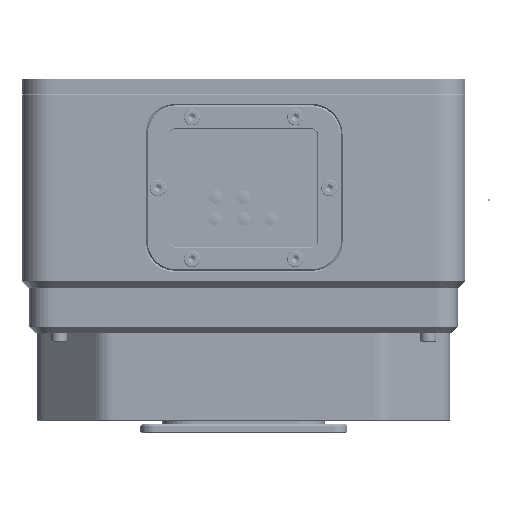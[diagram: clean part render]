
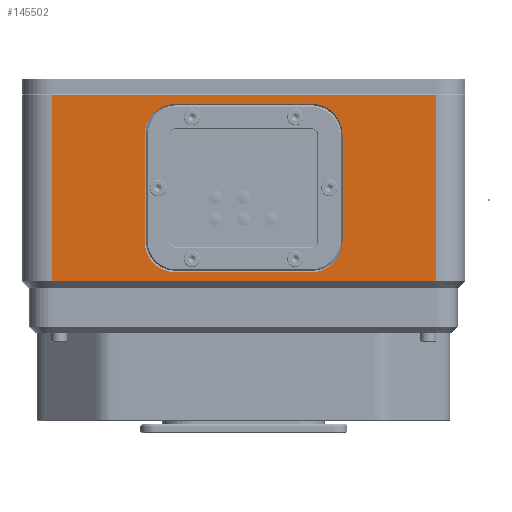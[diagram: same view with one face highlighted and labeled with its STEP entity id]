
A CAD part, left-side view. The second image highlights one B-rep face of the part: STEP entity #145502.
In plain terms, the highlighted planar face has unit normal (-1, 0, 0).
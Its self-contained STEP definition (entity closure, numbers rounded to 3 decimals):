
#2299 = EDGE_CURVE ( 'NONE', #150241, #176050, #63987, .T. ) ;
#4893 = VERTEX_POINT ( 'NONE', #159864 ) ;
#5488 = CARTESIAN_POINT ( 'NONE',  ( -162.64, -64.022, 226. ) ) ;
#6170 = EDGE_CURVE ( 'NONE', #59603, #161806, #164459, .T. ) ;
#6420 = FACE_OUTER_BOUND ( 'NONE', #72672, .T. ) ;
#6557 = CARTESIAN_POINT ( 'NONE',  ( -162.64, -22.522, 267. ) ) ;
#6820 = EDGE_CURVE ( 'NONE', #133021, #43551, #86256, .T. ) ;
#8531 = EDGE_CURVE ( 'NONE', #34037, #55873, #173690, .T. ) ;
#9224 = ORIENTED_EDGE ( 'NONE', *, *, #6820, .T. ) ;
#10221 = CARTESIAN_POINT ( 'NONE',  ( -162.64, -12.022, 231. ) ) ;
#18454 = DIRECTION ( 'NONE',  ( 0., -1., 0. ) ) ;
#20315 = CARTESIAN_POINT ( 'NONE',  ( -162.64, -54.022, 217.5 ) ) ;
#20432 = VECTOR ( 'NONE', #18454, 1000. ) ;
#21151 = DIRECTION ( 'NONE',  ( 0., 0., 1. ) ) ;
#22127 = ORIENTED_EDGE ( 'NONE', *, *, #41478, .T. ) ;
#24147 = AXIS2_PLACEMENT_3D ( 'NONE', #60745, #118144, #45454 ) ;
#25243 = DIRECTION ( 'NONE',  ( 0., 0., 1. ) ) ;
#26633 = CARTESIAN_POINT ( 'NONE',  ( -162.64, 75.978, 217.5 ) ) ;
#34037 = VERTEX_POINT ( 'NONE', #36732 ) ;
#34854 = CARTESIAN_POINT ( 'NONE',  ( -162.64, 75.978, 280.5 ) ) ;
#36732 = CARTESIAN_POINT ( 'NONE',  ( -162.64, -54.022, 217.5 ) ) ;
#36764 = LINE ( 'NONE', #63581, #59450 ) ;
#37024 = EDGE_CURVE ( 'NONE', #4893, #49603, #36764, .T. ) ;
#41478 = EDGE_CURVE ( 'NONE', #49603, #84291, #115801, .T. ) ;
#41854 = LINE ( 'NONE', #64169, #63830 ) ;
#43551 = VERTEX_POINT ( 'NONE', #75938 ) ;
#45454 = DIRECTION ( 'NONE',  ( 0., 0., 1. ) ) ;
#46485 = EDGE_CURVE ( 'NONE', #84291, #59603, #100242, .T. ) ;
#49603 = VERTEX_POINT ( 'NONE', #131385 ) ;
#50045 = VECTOR ( 'NONE', #149220, 1000. ) ;
#50262 = ORIENTED_EDGE ( 'NONE', *, *, #157851, .T. ) ;
#54429 = ORIENTED_EDGE ( 'NONE', *, *, #2299, .T. ) ;
#54518 = VECTOR ( 'NONE', #157287, 1000. ) ;
#55873 = VERTEX_POINT ( 'NONE', #183548 ) ;
#57644 = CARTESIAN_POINT ( 'NONE',  ( -162.64, -12.022, 277.5 ) ) ;
#59450 = VECTOR ( 'NONE', #95082, 1000. ) ;
#59603 = VERTEX_POINT ( 'NONE', #57644 ) ;
#60745 = CARTESIAN_POINT ( 'NONE',  ( -162.64, 33.978, 267. ) ) ;
#61532 = LINE ( 'NONE', #20315, #20432 ) ;
#62268 = VECTOR ( 'NONE', #156744, 1000. ) ;
#63581 = CARTESIAN_POINT ( 'NONE',  ( -162.64, 44.478, 226. ) ) ;
#63830 = VECTOR ( 'NONE', #155750, 1000. ) ;
#63987 = LINE ( 'NONE', #108926, #50045 ) ;
#64169 = CARTESIAN_POINT ( 'NONE',  ( -162.64, -22.522, 226. ) ) ;
#64825 = DIRECTION ( 'NONE',  ( 0., 0., 1. ) ) ;
#64927 = EDGE_CURVE ( 'NONE', #55873, #150241, #70202, .T. ) ;
#70173 = ORIENTED_EDGE ( 'NONE', *, *, #64927, .T. ) ;
#70202 = LINE ( 'NONE', #85490, #54518 ) ;
#72649 = CIRCLE ( 'NONE', #158194, 10.5 ) ;
#72672 = EDGE_LOOP ( 'NONE', ( #54429, #107585, #141383, #70173 ) ) ;
#72693 = AXIS2_PLACEMENT_3D ( 'NONE', #163534, #132886, #177955 ) ;
#73072 = CARTESIAN_POINT ( 'NONE',  ( -162.64, -54.022, 226. ) ) ;
#75938 = CARTESIAN_POINT ( 'NONE',  ( -162.64, 33.978, 220.5 ) ) ;
#78226 = FACE_BOUND ( 'NONE', #170665, .T. ) ;
#83372 = EDGE_CURVE ( 'NONE', #161806, #179311, #41854, .T. ) ;
#84291 = VERTEX_POINT ( 'NONE', #161014 ) ;
#85253 = AXIS2_PLACEMENT_3D ( 'NONE', #5488, #122244, #64825 ) ;
#85490 = CARTESIAN_POINT ( 'NONE',  ( -162.64, 75.978, 280.5 ) ) ;
#86256 = LINE ( 'NONE', #113049, #121862 ) ;
#93868 = DIRECTION ( 'NONE',  ( 1., 0., 0. ) ) ;
#95082 = DIRECTION ( 'NONE',  ( 0., 0., 1. ) ) ;
#97108 = CIRCLE ( 'NONE', #127746, 10.5 ) ;
#98835 = ORIENTED_EDGE ( 'NONE', *, *, #37024, .T. ) ;
#100242 = LINE ( 'NONE', #112704, #62268 ) ;
#101105 = DIRECTION ( 'NONE',  ( 0., 0., 1. ) ) ;
#107585 = ORIENTED_EDGE ( 'NONE', *, *, #145181, .T. ) ;
#108808 = PLANE ( 'NONE',  #85253 ) ;
#108926 = CARTESIAN_POINT ( 'NONE',  ( -162.64, 75.978, 226. ) ) ;
#112412 = VECTOR ( 'NONE', #25243, 1000. ) ;
#112704 = CARTESIAN_POINT ( 'NONE',  ( -162.64, -64.022, 277.5 ) ) ;
#112755 = ORIENTED_EDGE ( 'NONE', *, *, #6170, .T. ) ;
#113049 = CARTESIAN_POINT ( 'NONE',  ( -162.64, -64.022, 220.5 ) ) ;
#115801 = CIRCLE ( 'NONE', #24147, 10.5 ) ;
#118144 = DIRECTION ( 'NONE',  ( 1., 0., 0. ) ) ;
#121862 = VECTOR ( 'NONE', #158064, 1000. ) ;
#122244 = DIRECTION ( 'NONE',  ( 1., 0., 0. ) ) ;
#127746 = AXIS2_PLACEMENT_3D ( 'NONE', #166710, #93868, #21151 ) ;
#127853 = ORIENTED_EDGE ( 'NONE', *, *, #83372, .T. ) ;
#129038 = EDGE_CURVE ( 'NONE', #179311, #133021, #72649, .T. ) ;
#131385 = CARTESIAN_POINT ( 'NONE',  ( -162.64, 44.478, 267. ) ) ;
#132886 = DIRECTION ( 'NONE',  ( 1., 0., 0. ) ) ;
#133021 = VERTEX_POINT ( 'NONE', #145941 ) ;
#139181 = CARTESIAN_POINT ( 'NONE',  ( -162.64, -22.522, 231. ) ) ;
#141383 = ORIENTED_EDGE ( 'NONE', *, *, #8531, .T. ) ;
#145181 = EDGE_CURVE ( 'NONE', #176050, #34037, #61532, .T. ) ;
#145502 = ADVANCED_FACE ( 'NONE', ( #78226, #6420 ), #108808, .F. ) ;
#145941 = CARTESIAN_POINT ( 'NONE',  ( -162.64, -12.022, 220.5 ) ) ;
#149220 = DIRECTION ( 'NONE',  ( 0., 0., -1. ) ) ;
#150241 = VERTEX_POINT ( 'NONE', #34854 ) ;
#155750 = DIRECTION ( 'NONE',  ( 0., 0., -1. ) ) ;
#156744 = DIRECTION ( 'NONE',  ( 0., -1., 0. ) ) ;
#157287 = DIRECTION ( 'NONE',  ( 0., 1., 0. ) ) ;
#157851 = EDGE_CURVE ( 'NONE', #43551, #4893, #97108, .T. ) ;
#158064 = DIRECTION ( 'NONE',  ( 0., 1., 0. ) ) ;
#158194 = AXIS2_PLACEMENT_3D ( 'NONE', #10221, #160480, #101105 ) ;
#159864 = CARTESIAN_POINT ( 'NONE',  ( -162.64, 44.478, 231. ) ) ;
#160480 = DIRECTION ( 'NONE',  ( 1., 0., 0. ) ) ;
#161014 = CARTESIAN_POINT ( 'NONE',  ( -162.64, 33.978, 277.5 ) ) ;
#161806 = VERTEX_POINT ( 'NONE', #6557 ) ;
#163534 = CARTESIAN_POINT ( 'NONE',  ( -162.64, -12.022, 267. ) ) ;
#164459 = CIRCLE ( 'NONE', #72693, 10.5 ) ;
#166710 = CARTESIAN_POINT ( 'NONE',  ( -162.64, 33.978, 231. ) ) ;
#170665 = EDGE_LOOP ( 'NONE', ( #22127, #176583, #112755, #127853, #184117, #9224, #50262, #98835 ) ) ;
#173690 = LINE ( 'NONE', #73072, #112412 ) ;
#176050 = VERTEX_POINT ( 'NONE', #26633 ) ;
#176583 = ORIENTED_EDGE ( 'NONE', *, *, #46485, .T. ) ;
#177955 = DIRECTION ( 'NONE',  ( 0., 0., 1. ) ) ;
#179311 = VERTEX_POINT ( 'NONE', #139181 ) ;
#183548 = CARTESIAN_POINT ( 'NONE',  ( -162.64, -54.022, 280.5 ) ) ;
#184117 = ORIENTED_EDGE ( 'NONE', *, *, #129038, .T. ) ;
